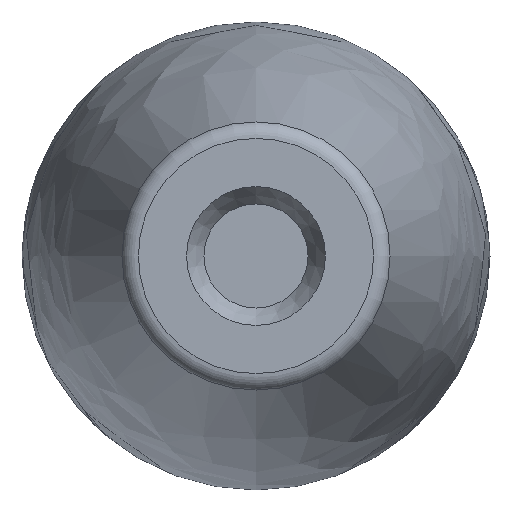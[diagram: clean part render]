
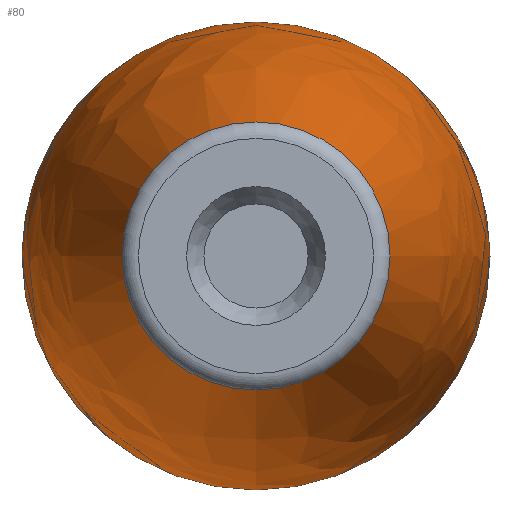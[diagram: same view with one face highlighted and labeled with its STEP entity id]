
A CAD part, front view. The second image highlights one B-rep face of the part: STEP entity #80.
In plain terms, the highlighted free-form (B-spline) face has degree [3, 3] with [4, 7] control points.
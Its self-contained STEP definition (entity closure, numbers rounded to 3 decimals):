
#80 = ADVANCED_FACE( '', ( #103, #104 ), #105, .T. );
#103 = FACE_OUTER_BOUND( '', #139, .T. );
#104 = FACE_OUTER_BOUND( '', #140, .T. );
#105 = ( BOUNDED_SURFACE(  )B_SPLINE_SURFACE( 3, 3, ( ( #143, #144, #145, #146, #147, #148, #149 ), ( #150, #151, #152, #153, #154, #155, #156 ), ( #157, #158, #159, #160, #161, #162, #163 ), ( #164, #165, #166, #167, #168, #169, #170 ) ), .UNSPECIFIED., .F., .T., .F. )B_SPLINE_SURFACE_WITH_KNOTS( ( 4, 4 ), ( 4, 3, 4 ), ( 0., 6.283 ), ( 0.009, 0.166, 0.324 ), .UNSPECIFIED. )GEOMETRIC_REPRESENTATION_ITEM(  )RATIONAL_B_SPLINE_SURFACE( ( ( 1., 0.333, 0.333, 1., 0.333, 0.333, 1. ), ( 0.992, 0.331, 0.331, 0.992, 0.331, 0.331, 0.992 ), ( 0.992, 0.331, 0.331, 0.992, 0.331, 0.331, 0.992 ), ( 1., 0.333, 0.333, 1., 0.333, 0.333, 1. ) ) )REPRESENTATION_ITEM( '' )SURFACE(  ) );
#139 = EDGE_LOOP( '', ( #219 ) );
#140 = EDGE_LOOP( '', ( #220 ) );
#143 = CARTESIAN_POINT( '', ( 0., 0.682, -7.731 ) );
#144 = CARTESIAN_POINT( '', ( 15.463, 0.682, -7.731 ) );
#145 = CARTESIAN_POINT( '', ( 15.463, 0.682, 7.731 ) );
#146 = CARTESIAN_POINT( '', ( 0., 0.682, 7.731 ) );
#147 = CARTESIAN_POINT( '', ( -15.463, 0.682, 7.731 ) );
#148 = CARTESIAN_POINT( '', ( -15.463, 0.682, -7.731 ) );
#149 = CARTESIAN_POINT( '', ( 0., 0.682, -7.731 ) );
#150 = CARTESIAN_POINT( '', ( 0., 11.767, -11.452 ) );
#151 = CARTESIAN_POINT( '', ( 22.904, 11.767, -11.452 ) );
#152 = CARTESIAN_POINT( '', ( 22.904, 11.767, 11.452 ) );
#153 = CARTESIAN_POINT( '', ( 0., 11.767, 11.452 ) );
#154 = CARTESIAN_POINT( '', ( -22.904, 11.767, 11.452 ) );
#155 = CARTESIAN_POINT( '', ( -22.904, 11.767, -11.452 ) );
#156 = CARTESIAN_POINT( '', ( 0., 11.767, -11.452 ) );
#157 = CARTESIAN_POINT( '', ( 0., 23.298, -13.389 ) );
#158 = CARTESIAN_POINT( '', ( 26.778, 23.298, -13.389 ) );
#159 = CARTESIAN_POINT( '', ( 26.778, 23.298, 13.389 ) );
#160 = CARTESIAN_POINT( '', ( 0., 23.298, 13.389 ) );
#161 = CARTESIAN_POINT( '', ( -26.778, 23.298, 13.389 ) );
#162 = CARTESIAN_POINT( '', ( -26.778, 23.298, -13.389 ) );
#163 = CARTESIAN_POINT( '', ( 0., 23.298, -13.389 ) );
#164 = CARTESIAN_POINT( '', ( 0., 34.991, -13.495 ) );
#165 = CARTESIAN_POINT( '', ( 26.991, 34.991, -13.495 ) );
#166 = CARTESIAN_POINT( '', ( 26.991, 34.991, 13.495 ) );
#167 = CARTESIAN_POINT( '', ( 0., 34.991, 13.495 ) );
#168 = CARTESIAN_POINT( '', ( -26.991, 34.991, 13.495 ) );
#169 = CARTESIAN_POINT( '', ( -26.991, 34.991, -13.495 ) );
#170 = CARTESIAN_POINT( '', ( 0., 34.991, -13.495 ) );
#219 = ORIENTED_EDGE( '', *, *, #257, .T. );
#220 = ORIENTED_EDGE( '', *, *, #256, .F. );
#256 = EDGE_CURVE( '', #274, #274, #275, .T. );
#257 = EDGE_CURVE( '', #276, #276, #277, .T. );
#274 = VERTEX_POINT( '', #296 );
#275 = CIRCLE( '', #297, 7.731 );
#276 = VERTEX_POINT( '', #298 );
#277 = CIRCLE( '', #299, 13.495 );
#296 = CARTESIAN_POINT( '', ( 0., 0.682, -7.731 ) );
#297 = AXIS2_PLACEMENT_3D( '', #323, #324, #325 );
#298 = CARTESIAN_POINT( '', ( 0., 34.991, -13.495 ) );
#299 = AXIS2_PLACEMENT_3D( '', #326, #327, #328 );
#323 = CARTESIAN_POINT( '', ( 0., 0.682, 0. ) );
#324 = DIRECTION( '', ( 0., -1., 0. ) );
#325 = DIRECTION( '', ( 0., 0., -1. ) );
#326 = CARTESIAN_POINT( '', ( 0., 34.991, 0. ) );
#327 = DIRECTION( '', ( 0., -1., 0. ) );
#328 = DIRECTION( '', ( 0., 0., -1. ) );
